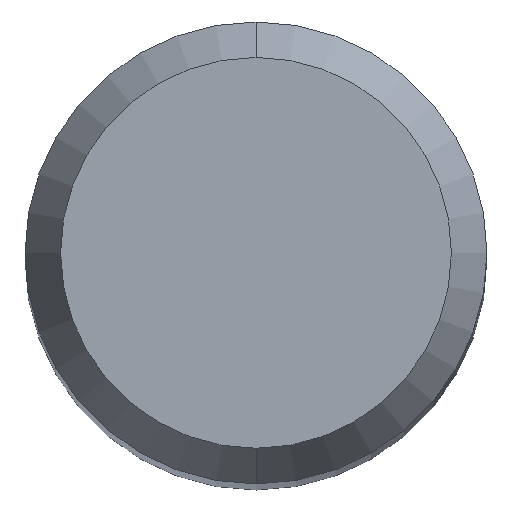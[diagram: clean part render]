
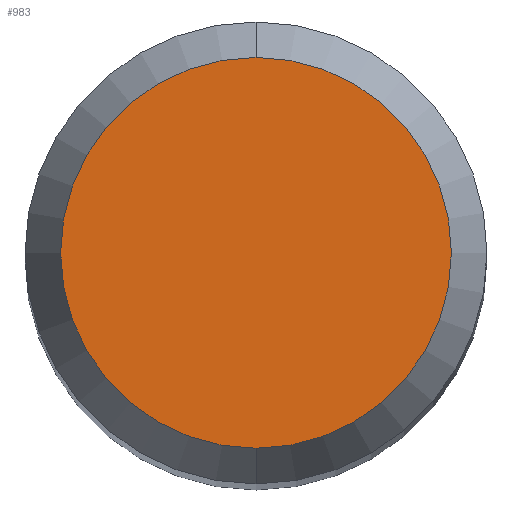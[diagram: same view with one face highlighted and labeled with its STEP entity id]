
A CAD part, top view. The second image highlights one B-rep face of the part: STEP entity #983.
In plain terms, the highlighted planar face has unit normal (0, 0, 1).
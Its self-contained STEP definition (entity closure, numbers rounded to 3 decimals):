
#909=EDGE_CURVE('',#1167,#985,#2037,.T.);
#983=ADVANCED_FACE('',(#2121),#2122,.T.);
#985=VERTEX_POINT('',#2124);
#1167=VERTEX_POINT('',#2324);
#1223=EDGE_CURVE('',#985,#1167,#2386,.T.);
#2037=CIRCLE('',#5244,2.538);
#2121=FACE_OUTER_BOUND('',#5853,.T.);
#2122=PLANE('',#5854);
#2124=CARTESIAN_POINT('',(0.,-2.538,0.0));
#2324=CARTESIAN_POINT('',(0.0,2.538,0.0));
#2386=CIRCLE('',#7674,2.538);
#5244=AXIS2_PLACEMENT_3D('',#11267,#11268,#11269);
#5853=EDGE_LOOP('',(#11412,#11413));
#5854=AXIS2_PLACEMENT_3D('',#11414,#11415,#11416);
#7674=AXIS2_PLACEMENT_3D('',#11689,#11690,#11691);
#11267=CARTESIAN_POINT('',(0.0,0.0,0.0));
#11268=DIRECTION('',(0.0,0.0,-1.0));
#11269=DIRECTION('',(0.0,1.0,0.0));
#11412=ORIENTED_EDGE('',*,*,#909,.F.);
#11413=ORIENTED_EDGE('',*,*,#1223,.F.);
#11414=CARTESIAN_POINT('',(0.0,1.269,0.0));
#11415=DIRECTION('',(-0.0,0.0,1.0));
#11416=DIRECTION('',(0.0,-1.0,0.0));
#11689=CARTESIAN_POINT('',(0.0,0.0,0.0));
#11690=DIRECTION('',(0.0,0.0,-1.0));
#11691=DIRECTION('',(0.0,1.0,0.0));
